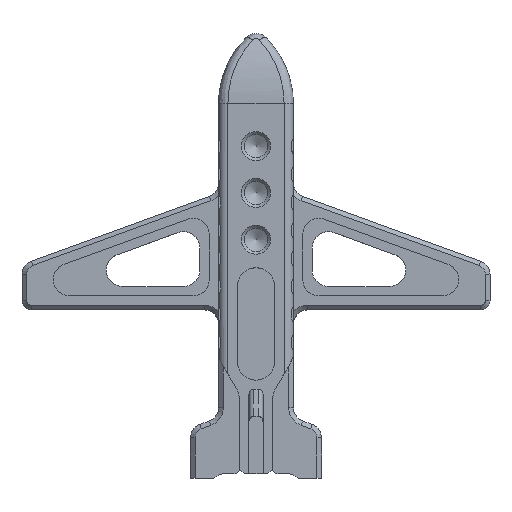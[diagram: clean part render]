
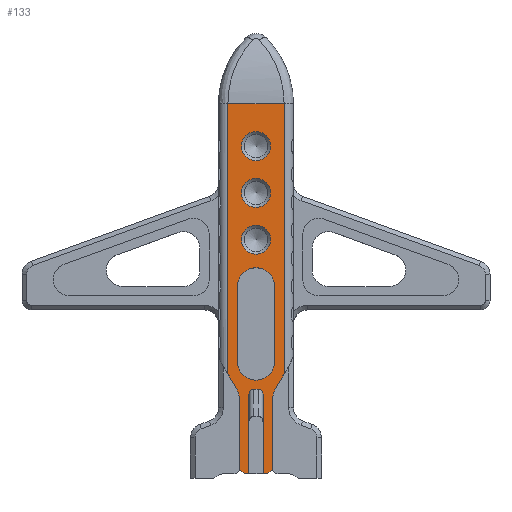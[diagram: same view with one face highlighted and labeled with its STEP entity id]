
A CAD part, top view. The second image highlights one B-rep face of the part: STEP entity #133.
In plain terms, the highlighted planar face has unit normal (0, 0, 1).
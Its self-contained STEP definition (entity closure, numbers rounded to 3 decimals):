
#133=ADVANCED_FACE('',(#876,#878,#880,#882,#884),#886,.T.);
#876=FACE_BOUND('',#877,.T.);
#877=EDGE_LOOP('',(#2490,#2491,#2492,#2493,#2494,#2495,#2496,#2497,#2498,#2499,#2500,
#2501,#2502,#2503,#2504,#2505,#2506,#2507));
#878=FACE_BOUND('',#879,.T.);
#879=EDGE_LOOP('',(#2508,#2509,#2510,#2511));
#880=FACE_BOUND('',#881,.T.);
#881=EDGE_LOOP('',(#2512));
#882=FACE_BOUND('',#883,.T.);
#883=EDGE_LOOP('',(#2513));
#884=FACE_BOUND('',#885,.T.);
#885=EDGE_LOOP('',(#2514));
#886=PLANE('',#887);
#887=AXIS2_PLACEMENT_3D('',#888,#889,#890);
#888=CARTESIAN_POINT('',(0.109,0.045,28.));
#889=DIRECTION('',(0.,0.,1.));
#890=DIRECTION('',(-0.707,0.707,0.));
#2490=ORIENTED_EDGE('',*,*,#3470,.F.);
#2491=ORIENTED_EDGE('',*,*,#3471,.T.);
#2492=ORIENTED_EDGE('',*,*,#3472,.F.);
#2493=ORIENTED_EDGE('',*,*,#3473,.T.);
#2494=ORIENTED_EDGE('',*,*,#3324,.F.);
#2495=ORIENTED_EDGE('',*,*,#3474,.T.);
#2496=ORIENTED_EDGE('',*,*,#3405,.F.);
#2497=ORIENTED_EDGE('',*,*,#3475,.T.);
#2498=ORIENTED_EDGE('',*,*,#3476,.F.);
#2499=ORIENTED_EDGE('',*,*,#3477,.T.);
#2500=ORIENTED_EDGE('',*,*,#3478,.F.);
#2501=ORIENTED_EDGE('',*,*,#3479,.F.);
#2502=ORIENTED_EDGE('',*,*,#3480,.F.);
#2503=ORIENTED_EDGE('',*,*,#3481,.F.);
#2504=ORIENTED_EDGE('',*,*,#3482,.F.);
#2505=ORIENTED_EDGE('',*,*,#3483,.F.);
#2506=ORIENTED_EDGE('',*,*,#3484,.F.);
#2507=ORIENTED_EDGE('',*,*,#3485,.F.);
#2508=ORIENTED_EDGE('',*,*,#3486,.T.);
#2509=ORIENTED_EDGE('',*,*,#3487,.T.);
#2510=ORIENTED_EDGE('',*,*,#3488,.T.);
#2511=ORIENTED_EDGE('',*,*,#3489,.T.);
#2512=ORIENTED_EDGE('',*,*,#3490,.F.);
#2513=ORIENTED_EDGE('',*,*,#3491,.F.);
#2514=ORIENTED_EDGE('',*,*,#3492,.F.);
#3324=EDGE_CURVE('',#4045,#4047,#4048,.T.);
#3405=EDGE_CURVE('',#4173,#4175,#4176,.T.);
#3470=EDGE_CURVE('',#4275,#4276,#4277,.T.);
#3471=EDGE_CURVE('',#4275,#4278,#4279,.T.);
#3472=EDGE_CURVE('',#4280,#4278,#4281,.T.);
#3473=EDGE_CURVE('',#4280,#4047,#4282,.T.);
#3474=EDGE_CURVE('',#4045,#4175,#4283,.T.);
#3475=EDGE_CURVE('',#4173,#4284,#4285,.T.);
#3476=EDGE_CURVE('',#4286,#4284,#4287,.T.);
#3477=EDGE_CURVE('',#4286,#4288,#4289,.T.);
#3478=EDGE_CURVE('',#4290,#4288,#4291,.T.);
#3479=EDGE_CURVE('',#4292,#4290,#4293,.T.);
#3480=EDGE_CURVE('',#4294,#4292,#4295,.T.);
#3481=EDGE_CURVE('',#4296,#4294,#4297,.F.);
#3482=EDGE_CURVE('',#4298,#4296,#4299,.T.);
#3483=EDGE_CURVE('',#4300,#4298,#4301,.F.);
#3484=EDGE_CURVE('',#4302,#4300,#4303,.T.);
#3485=EDGE_CURVE('',#4276,#4302,#4304,.T.);
#3486=EDGE_CURVE('',#4305,#4306,#4307,.T.);
#3487=EDGE_CURVE('',#4306,#4308,#4309,.T.);
#3488=EDGE_CURVE('',#4308,#4310,#4311,.T.);
#3489=EDGE_CURVE('',#4310,#4305,#4312,.T.);
#3490=EDGE_CURVE('',#4313,#4313,#4314,.T.);
#3491=EDGE_CURVE('',#4315,#4315,#4316,.T.);
#3492=EDGE_CURVE('',#4317,#4317,#4318,.T.);
#4045=VERTEX_POINT('',#6000);
#4047=VERTEX_POINT('',#6005);
#4048=LINE('',#6006,#6007);
#4173=VERTEX_POINT('',#7448);
#4175=VERTEX_POINT('',#7453);
#4176=LINE('',#7454,#7455);
#4275=VERTEX_POINT('',#9169);
#4276=VERTEX_POINT('',#9170);
#4277=LINE('',#9171,#9172);
#4278=VERTEX_POINT('',#9174);
#4279=LINE('',#9175,#9176);
#4280=VERTEX_POINT('',#9178);
#4281=CIRCLE('',#9179,5.);
#4282=LINE('',#9183,#9184);
#4283=LINE('',#9186,#9187);
#4284=VERTEX_POINT('',#9189);
#4285=LINE('',#9190,#9191);
#4286=VERTEX_POINT('',#9193);
#4287=CIRCLE('',#9194,5.);
#4288=VERTEX_POINT('',#9198);
#4289=LINE('',#9199,#9200);
#4290=VERTEX_POINT('',#9202);
#4291=LINE('',#9203,#9204);
#4292=VERTEX_POINT('',#9206);
#4293=LINE('',#9207,#9208);
#4294=VERTEX_POINT('',#9210);
#4295=LINE('',#9211,#9212);
#4296=VERTEX_POINT('',#9214);
#4297=(BOUNDED_CURVE()B_SPLINE_CURVE(3,
(#9215,#9216,#9217,#9218),
.UNSPECIFIED.,.F.,.F.)B_SPLINE_CURVE_WITH_KNOTS((4,4),
(0.,1.),
.UNSPECIFIED.)CURVE()GEOMETRIC_REPRESENTATION_ITEM()RATIONAL_B_SPLINE_CURVE((1.,
0.805,0.805,1.))REPRESENTATION_ITEM(''));
#4298=VERTEX_POINT('',#9219);
#4299=LINE('',#9220,#9221);
#4300=VERTEX_POINT('',#9223);
#4301=(BOUNDED_CURVE()B_SPLINE_CURVE(3,
(#9224,#9225,#9226,#9227),
.UNSPECIFIED.,.F.,.F.)B_SPLINE_CURVE_WITH_KNOTS((4,4),
(0.,1.),
.UNSPECIFIED.)CURVE()GEOMETRIC_REPRESENTATION_ITEM()RATIONAL_B_SPLINE_CURVE((1.,
0.805,0.805,1.))REPRESENTATION_ITEM(''));
#4302=VERTEX_POINT('',#9228);
#4303=LINE('',#9229,#9230);
#4304=LINE('',#9232,#9233);
#4305=VERTEX_POINT('',#9235);
#4306=VERTEX_POINT('',#9236);
#4307=LINE('',#9237,#9238);
#4308=VERTEX_POINT('',#9240);
#4309=CIRCLE('',#9241,4.);
#4310=VERTEX_POINT('',#9245);
#4311=LINE('',#9246,#9247);
#4312=CIRCLE('',#9249,4.);
#4313=VERTEX_POINT('',#9253);
#4314=CIRCLE('',#9254,3.1);
#4315=VERTEX_POINT('',#9258);
#4316=CIRCLE('',#9259,3.1);
#4317=VERTEX_POINT('',#9263);
#4318=CIRCLE('',#9264,3.1);
#6000=CARTESIAN_POINT('',(6.109,38.915,28.));
#6005=CARTESIAN_POINT('',(6.109,-18.779,28.));
#6006=CARTESIAN_POINT('',(6.109,38.915,28.));
#6007=VECTOR('',#6008,1.);
#6008=DIRECTION('',(0.,-1.,0.));
#7448=CARTESIAN_POINT('',(-5.891,-18.779,28.));
#7453=CARTESIAN_POINT('',(-5.891,38.915,28.));
#7454=CARTESIAN_POINT('',(-5.891,-18.779,28.));
#7455=VECTOR('',#7456,1.);
#7456=DIRECTION('',(0.,1.,0.));
#9169=CARTESIAN_POINT('',(3.609,-39.109,28.));
#9170=CARTESIAN_POINT('',(2.609,-40.109,28.));
#9171=CARTESIAN_POINT('',(3.609,-39.109,28.));
#9172=VECTOR('',#9173,1.);
#9173=DIRECTION('',(-0.707,-0.707,0.));
#9174=CARTESIAN_POINT('',(3.609,-24.449,28.));
#9175=CARTESIAN_POINT('',(3.609,-39.109,28.));
#9176=VECTOR('',#9177,1.);
#9177=DIRECTION('',(0.,1.,0.));
#9178=CARTESIAN_POINT('',(4.279,-21.949,28.));
#9179=AXIS2_PLACEMENT_3D('',#9180,#9181,#9182);
#9180=CARTESIAN_POINT('',(8.609,-24.449,28.));
#9181=DIRECTION('',(0.,0.,1.));
#9182=DIRECTION('',(-0.866,0.5,0.));
#9183=CARTESIAN_POINT('',(4.279,-21.949,28.));
#9184=VECTOR('',#9185,1.);
#9185=DIRECTION('',(0.5,0.866,0.));
#9186=CARTESIAN_POINT('',(6.109,38.915,28.));
#9187=VECTOR('',#9188,1.);
#9188=DIRECTION('',(-1.,0.,0.));
#9189=CARTESIAN_POINT('',(-4.061,-21.949,28.));
#9190=CARTESIAN_POINT('',(-5.891,-18.779,28.));
#9191=VECTOR('',#9192,1.);
#9192=DIRECTION('',(0.5,-0.866,0.));
#9193=CARTESIAN_POINT('',(-3.391,-24.449,28.));
#9194=AXIS2_PLACEMENT_3D('',#9195,#9196,#9197);
#9195=CARTESIAN_POINT('',(-8.391,-24.449,28.));
#9196=DIRECTION('',(0.,0.,1.));
#9197=DIRECTION('',(1.,0.,0.));
#9198=CARTESIAN_POINT('',(-3.391,-39.109,28.));
#9199=CARTESIAN_POINT('',(-3.391,-24.449,28.));
#9200=VECTOR('',#9201,1.);
#9201=DIRECTION('',(0.,-1.,0.));
#9202=CARTESIAN_POINT('',(-2.391,-40.109,28.));
#9203=CARTESIAN_POINT('',(-2.391,-40.109,28.));
#9204=VECTOR('',#9205,1.);
#9205=DIRECTION('',(-0.707,0.707,0.));
#9206=CARTESIAN_POINT('',(-1.391,-40.109,28.));
#9207=CARTESIAN_POINT('',(-1.391,-40.109,28.));
#9208=VECTOR('',#9209,1.);
#9209=DIRECTION('',(-1.,0.,0.));
#9210=CARTESIAN_POINT('',(-1.391,-23.264,28.));
#9211=CARTESIAN_POINT('',(-1.391,-23.264,28.));
#9212=VECTOR('',#9213,1.);
#9213=DIRECTION('',(0.,-1.,0.));
#9214=CARTESIAN_POINT('',(-0.391,-22.109,28.));
#9215=CARTESIAN_POINT('',(-1.391,-23.264,28.));
#9216=CARTESIAN_POINT('',(-1.391,-22.587,28.));
#9217=CARTESIAN_POINT('',(-0.977,-22.109,28.));
#9218=CARTESIAN_POINT('',(-0.391,-22.109,28.));
#9219=CARTESIAN_POINT('',(0.609,-22.109,28.));
#9220=CARTESIAN_POINT('',(0.609,-22.109,28.));
#9221=VECTOR('',#9222,1.);
#9222=DIRECTION('',(-1.,0.,0.));
#9223=CARTESIAN_POINT('',(1.609,-23.264,28.));
#9224=CARTESIAN_POINT('',(0.609,-22.109,28.));
#9225=CARTESIAN_POINT('',(1.195,-22.109,28.));
#9226=CARTESIAN_POINT('',(1.609,-22.587,28.));
#9227=CARTESIAN_POINT('',(1.609,-23.264,28.));
#9228=CARTESIAN_POINT('',(1.609,-40.109,28.));
#9229=CARTESIAN_POINT('',(1.609,-40.109,28.));
#9230=VECTOR('',#9231,1.);
#9231=DIRECTION('',(0.,1.,0.));
#9232=CARTESIAN_POINT('',(2.609,-40.109,28.));
#9233=VECTOR('',#9234,1.);
#9234=DIRECTION('',(-1.,0.,0.));
#9235=CARTESIAN_POINT('',(-3.891,-16.109,28.));
#9236=CARTESIAN_POINT('',(-3.891,-0.109,28.));
#9237=CARTESIAN_POINT('',(-3.891,-16.109,28.));
#9238=VECTOR('',#9239,1.);
#9239=DIRECTION('',(0.,1.,0.));
#9240=CARTESIAN_POINT('',(4.109,-0.109,28.));
#9241=AXIS2_PLACEMENT_3D('',#9242,#9243,#9244);
#9242=CARTESIAN_POINT('',(0.109,-0.109,28.));
#9243=DIRECTION('',(0.,0.,-1.));
#9244=DIRECTION('',(-1.,0.,0.));
#9245=CARTESIAN_POINT('',(4.109,-16.109,28.));
#9246=CARTESIAN_POINT('',(4.109,-0.109,28.));
#9247=VECTOR('',#9248,1.);
#9248=DIRECTION('',(0.,-1.,0.));
#9249=AXIS2_PLACEMENT_3D('',#9250,#9251,#9252);
#9250=CARTESIAN_POINT('',(0.109,-16.109,28.));
#9251=DIRECTION('',(0.,0.,-1.));
#9252=DIRECTION('',(1.,0.,0.));
#9253=CARTESIAN_POINT('',(2.301,17.699,28.));
#9254=AXIS2_PLACEMENT_3D('',#9255,#9256,#9257);
#9255=CARTESIAN_POINT('',(0.109,19.891,28.));
#9256=DIRECTION('',(0.,0.,1.));
#9257=DIRECTION('',(0.707,-0.707,0.));
#9258=CARTESIAN_POINT('',(2.301,27.699,28.));
#9259=AXIS2_PLACEMENT_3D('',#9260,#9261,#9262);
#9260=CARTESIAN_POINT('',(0.109,29.891,28.));
#9261=DIRECTION('',(0.,0.,1.));
#9262=DIRECTION('',(0.707,-0.707,0.));
#9263=CARTESIAN_POINT('',(2.301,7.699,28.));
#9264=AXIS2_PLACEMENT_3D('',#9265,#9266,#9267);
#9265=CARTESIAN_POINT('',(0.109,9.891,28.));
#9266=DIRECTION('',(0.,0.,1.));
#9267=DIRECTION('',(0.707,-0.707,0.));
